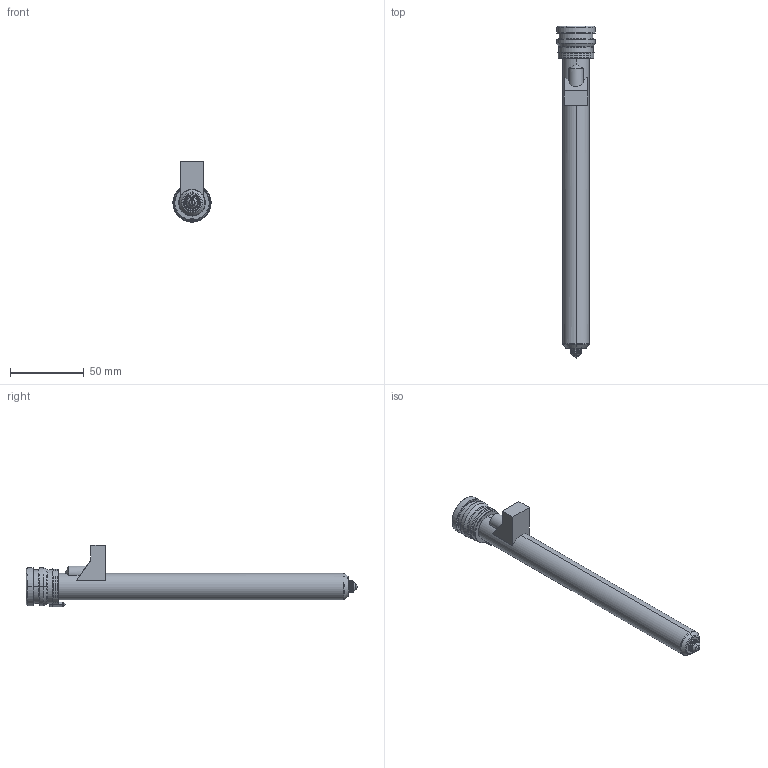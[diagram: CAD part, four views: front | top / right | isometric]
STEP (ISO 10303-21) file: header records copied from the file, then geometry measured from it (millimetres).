
FILE_DESCRIPTION((''),'2;1');
FILE_NAME('MPN-08-24-VX8-206-M','2026-02-05T13:32:08',('UPTIO'),('Thermoplay S.p.A.'),'CREO PARAMETRIC BY PTC INC, 2023494','CREO PARAMETRIC BY PTC INC, 2023494','');
FILE_SCHEMA(('CONFIG_CONTROL_DESIGN','SHAPE_APPEARANCE_LAYERS_GROUPS'));
Length unit declared in the file: millimetre
Products named in the file (1): MPN-08-24-VX8-206-M
Bounding box: 26 x 225.5 x 41.5 mm (x, y, z)
Volume: 41495.2 mm3; surface area: 56017.5 mm2
Topology: 2 solids, 3 shells, 529 faces, 1372 edges, 842 vertices
Faces by surface type: cylinder 174, plane 143, bspline 77, torus 60, cone 60, sphere 9, extrusion 6
Entity records: 27363 total; most frequent: CARTESIAN_POINT 11842, ORIENTED_EDGE 2726, DIRECTION 2495, EDGE_CURVE 1363, AXIS2_PLACEMENT_3D 975, VERTEX_POINT 842, EDGE_LOOP 559, VECTOR 545
